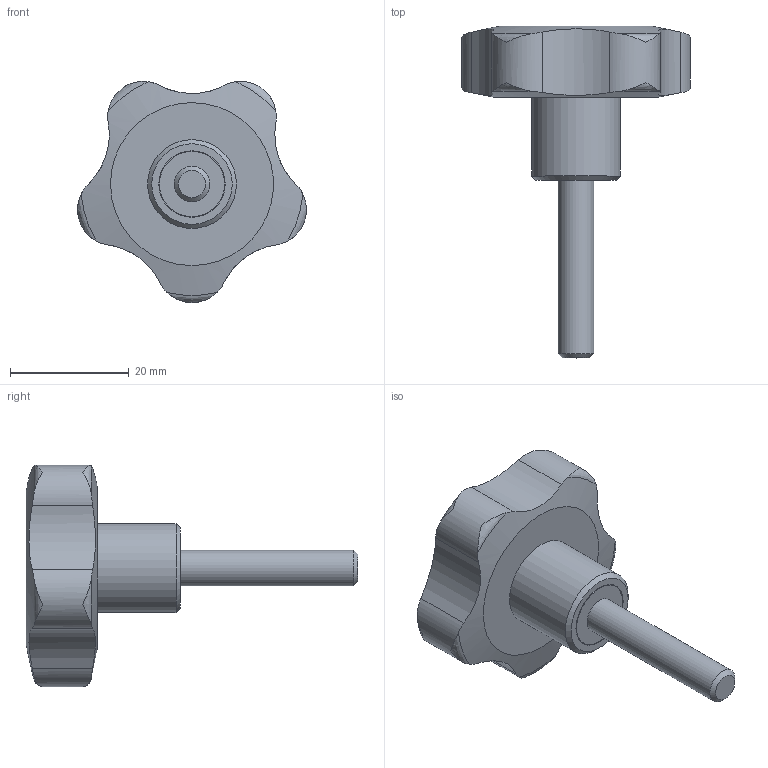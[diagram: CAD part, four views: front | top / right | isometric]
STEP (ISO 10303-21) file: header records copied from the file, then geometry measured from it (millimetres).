
FILE_DESCRIPTION( ( 'STEP AP203' ), '1' );
FILE_NAME( 'C:/Temp/Ganter_Step_05_03_2020/data/2_2/gn_5337_4/gn_5337_4_s/Star knob GN 5337.4-40-M6-30.stp', '2020-03-05T12:09:43', ( 'License CC BY-ND 4.0' ), ( 'CADENAS' ), ' ', 'PARTsolutions', ' ' );
FILE_SCHEMA( ( 'CONFIG_CONTROL_DESIGN' ) );
Length unit declared in the file: millimetre
Products named in the file (1): _Star knob GN 5337.4-40-M6-30
Bounding box: 38.62 x 56 x 37.33 mm (x, y, z)
Volume: 14322.2 mm3; surface area: 4419.4 mm2
Topology: 1 solids, 1 shells, 34 faces, 95 edges, 66 vertices
Faces by surface type: cylinder 14, torus 10, plane 5, cone 3, bspline 1, sphere 1
Full cylindrical faces by diameter (mm): 6 x1, 11 x1, 11.2 x1, 15 x1
Entity records: 1467 total; most frequent: CARTESIAN_POINT 679, ORIENTED_EDGE 164, DIRECTION 122, EDGE_CURVE 82, VERTEX_POINT 63, AXIS2_PLACEMENT_3D 56, B_SPLINE_CURVE_WITH_KNOTS 50, EDGE_LOOP 46
